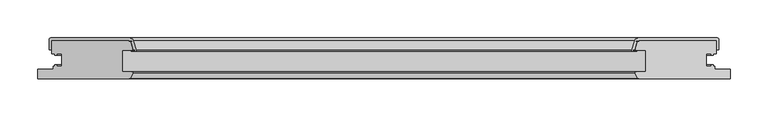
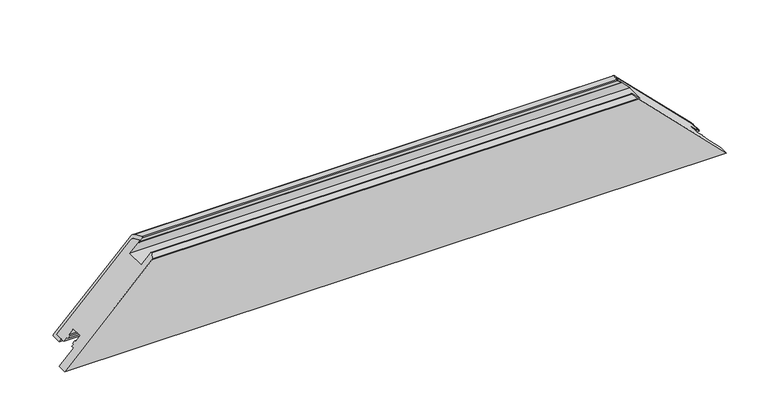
"""IFC4 building model written with IfcOpenShell, lengths in millimetres: proxy geometry, Weiku - Montante - Folha 02.2.01.019-039 : Weiku - Montante - Folha 02.2.01.019-039."""

from ifc_helpers import new_model, si_unit, frame, origin, place, context, project, spatial, polyline, ellipse_curve, source, transform, mapped, element, save
from ifc_brep_helpers import plane_surface, cylinder_surface, revolved_surface, advanced_brep


def generic_models_b032b2cc(model_context):
    return source(origin(), model_context, "Body", "AdvancedBrep", [
        advanced_brep(
        [(438.0000338, 50.0, 17.9999662), (336.4977922, 50.0, 119.5022078), (333.6000147, 47.7764571, 122.3999853), (331.0150961, 38.1294095, 124.9849039), (331.498059, 37.5, 124.501941), (344.998059, 37.5, 111.001941), (344.998059, 9.5, 111.001941), (332.2114874, 9.5, 123.7885126), (331.0493385, 7.617411, 124.9506615), (334.5913247, 0.5518546, 121.4086753), (335.4852854, 0.0, 120.5147146), (456.0, 0.0, 0.0), (456.0, 12.5, 0.0), (436.0, 12.5, 20.0), (436.0, 16.9, 20.0), (433.8, 16.9, 22.2), (433.8, 18.9, 22.2), (431.0, 18.9, 25.0), (431.0, 16.9, 25.0), (424.5, 16.9, 31.5), (424.5, 33.1, 31.5), (431.0, 33.1, 25.0), (431.0, 31.1, 25.0), (433.8, 31.1, 22.2), (433.8, 33.1, 22.2), (438.0000338, 33.1, 17.9999662), (-336.4977922, 50.0, 119.5022078), (-438.0000338, 50.0, 17.9999662), (-438.0000338, 33.1, 17.9999662), (-433.8, 33.1, 22.2), (-433.8, 31.1, 22.2), (-431.0, 31.1, 25.0), (-431.0, 33.1, 25.0), (-424.5, 33.1, 31.5), (-424.5, 16.9, 31.5), (-431.0, 16.9, 25.0), (-431.0, 18.9, 25.0), (-433.8, 18.9, 22.2), (-433.8, 16.9, 22.2), (-436.0, 16.9, 20.0), (-436.0, 12.5, 20.0), (-456.0, 12.5, 0.0), (-456.0, 0.0, 0.0), (-335.4852854, 0.0, 120.5147146), (-334.5913247, 0.5518546, 121.4086753), (-331.0493385, 7.617411, 124.9506615), (-332.2114874, 9.5, 123.7885126), (-344.998059, 9.5, 111.001941), (-344.998059, 37.5, 111.001941), (-331.498059, 37.5, 124.501941), (-331.0150961, 38.1294095, 124.9849039), (-333.6000147, 47.7764571, 122.3999853)],
        [
            (0, 1),
            (1, 2, ellipse_curve(frame((336.4977922, 47.0, 119.5022078), z_axis=(0.7071067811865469, 0.0, 0.7071067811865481), x_axis=(-0.7071067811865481, 0.0, 0.7071067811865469)), 4.2426407, 3.0)),
            (2, 3),
            (3, 4, ellipse_curve(frame((331.498059, 38.0, 124.501941), z_axis=(0.7071067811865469, 0.0, 0.7071067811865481), x_axis=(-0.7071067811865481, 0.0, 0.7071067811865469)), 0.7071068, 0.5)),
            (4, 5),
            (5, 6),
            (6, 7),
            (7, 8, ellipse_curve(frame((332.2114874, 8.2, 123.7885126), z_axis=(0.7071067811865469, 0.0, 0.7071067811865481), x_axis=(-0.7071067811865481, 0.0, 0.7071067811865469)), 1.8384776, 1.3)),
            (8, 9),
            (9, 10, ellipse_curve(frame((335.4852854, 1.0, 120.5147146), z_axis=(0.7071067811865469, 0.0, 0.7071067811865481), x_axis=(-0.7071067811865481, 0.0, 0.7071067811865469)), 1.4142136, 1.0)),
            (10, 11),
            (11, 12),
            (12, 13),
            (13, 14),
            (14, 15),
            (15, 16),
            (16, 17),
            (17, 18),
            (18, 19),
            (19, 20),
            (20, 21),
            (21, 22),
            (22, 23),
            (23, 24),
            (24, 25),
            (25, 0),
            (26, 27),
            (27, 28),
            (28, 29),
            (29, 30),
            (30, 31),
            (31, 32),
            (32, 33),
            (33, 34),
            (34, 35),
            (35, 36),
            (36, 37),
            (37, 38),
            (38, 39),
            (39, 40),
            (40, 41),
            (41, 42),
            (42, 43),
            (43, 44, ellipse_curve(frame((-335.4852854, 1.0, 120.5147146), z_axis=(-0.7071067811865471, 0.0, 0.707106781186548), x_axis=(-0.7071067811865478, 0.0, -0.7071067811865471)), 1.4142136, 1.0)),
            (44, 45),
            (45, 46, ellipse_curve(frame((-332.2114874, 8.2, 123.7885126), z_axis=(-0.7071067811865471, 0.0, 0.707106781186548), x_axis=(-0.7071067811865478, 0.0, -0.7071067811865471)), 1.8384776, 1.3)),
            (46, 47),
            (47, 48),
            (48, 49),
            (49, 50, ellipse_curve(frame((-331.498059, 38.0, 124.501941), z_axis=(-0.7071067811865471, 0.0, 0.707106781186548), x_axis=(-0.7071067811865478, 0.0, -0.7071067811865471)), 0.7071068, 0.5)),
            (50, 51),
            (51, 26, ellipse_curve(frame((-336.4977922, 47.0, 119.5022078), z_axis=(-0.7071067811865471, 0.0, 0.707106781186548), x_axis=(-0.7071067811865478, 0.0, -0.7071067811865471)), 4.2426407, 3.0)),
            (0, 27),
            (26, 1),
            (25, 28),
            (24, 29),
            (23, 30),
            (22, 31),
            (21, 32),
            (20, 33),
            (19, 34),
            (18, 35),
            (17, 36),
            (16, 37),
            (15, 38),
            (14, 39),
            (13, 40),
            (12, 41),
            (11, 42),
            (10, 43),
            (9, 44),
            (8, 45),
            (7, 46),
            (6, 47),
            (5, 48),
            (4, 49),
            (3, 50),
            (2, 51),
        ],
        [
            plane_surface(frame((326.0, -13.0, 130.0), z_axis=(0.7071067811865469, 0.0, 0.7071067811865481), x_axis=(0.0, 1.0, 0.0))),
            plane_surface(frame((-484.2842712, -13.0, -28.2842712), z_axis=(-0.7071067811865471, 0.0, 0.707106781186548), x_axis=(0.0, 1.0, 0.0))),
            plane_surface(frame((-456.0, 50.0, 119.5022078), z_axis=(0.0, 1.0, 0.0), x_axis=(1.0, 0.0, 0.0))),
            plane_surface(frame((-456.0, 50.0, 17.9999662), z_axis=(0.0, 0.0, -1.0), x_axis=(1.0, 0.0, 0.0))),
            plane_surface(frame((-456.0, 33.1, 17.9999662), z_axis=(0.0, -1.0, 0.0), x_axis=(1.0, 0.0, 0.0))),
            plane_surface(frame((-456.0, 33.1, 22.2), z_axis=(0.0, 0.0, -1.0), x_axis=(1.0, 0.0, 0.0))),
            plane_surface(frame((-456.0, 31.1, 22.2), z_axis=(0.0, -1.0, 0.0), x_axis=(1.0, 0.0, 0.0))),
            plane_surface(frame((-456.0, 31.1, 25.0), z_axis=(0.0, 0.0, 1.0), x_axis=(1.0, 0.0, 0.0))),
            plane_surface(frame((-456.0, 33.1, 25.0), z_axis=(0.0, -1.0, 0.0), x_axis=(1.0, 0.0, 0.0))),
            plane_surface(frame((-456.0, 33.1, 31.5), z_axis=(0.0, 0.0, -1.0), x_axis=(1.0, 0.0, 0.0))),
            plane_surface(frame((-456.0, 16.9, 31.5), z_axis=(0.0, 1.0, 0.0), x_axis=(1.0, 0.0, 0.0))),
            plane_surface(frame((-456.0, 16.9, 25.0), z_axis=(0.0, 0.0, 1.0), x_axis=(1.0, 0.0, 0.0))),
            plane_surface(frame((-456.0, 18.9, 25.0), z_axis=(0.0, 1.0, 0.0), x_axis=(1.0, 0.0, 0.0))),
            plane_surface(frame((-456.0, 18.9, 22.2), z_axis=(0.0, 0.0, -1.0), x_axis=(1.0, 0.0, 0.0))),
            plane_surface(frame((-456.0, 16.9, 22.2), z_axis=(0.0, 1.0, 0.0), x_axis=(1.0, 0.0, 0.0))),
            plane_surface(frame((-456.0, 16.9, 20.0), z_axis=(0.0, 0.0, -1.0), x_axis=(1.0, 0.0, 0.0))),
            plane_surface(frame((-456.0, 12.5, 20.0), z_axis=(0.0, 1.0, 0.0), x_axis=(1.0, 0.0, 0.0))),
            plane_surface(frame((-456.0, 12.5, 0.0), z_axis=(0.0, 0.0, -1.0), x_axis=(1.0, 0.0, 0.0))),
            plane_surface(frame((-456.0, 0.0, 0.0), z_axis=(0.0, -1.0, 0.0), x_axis=(1.0, 0.0, 0.0))),
            cylinder_surface(frame((-456.0, 1.0, 120.5147146), z_axis=(-1.0, 0.0, 0.0), x_axis=(0.0, 1.0, 0.0)), 1.0),
            plane_surface(frame((-456.0, 0.5518546, 121.4086753), z_axis=(0.0, -0.4481453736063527, 0.8939606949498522), x_axis=(1.0, 0.0, 0.0))),
            cylinder_surface(frame((-456.0, 8.2, 123.7885126), z_axis=(-1.0, 0.0, 0.0), x_axis=(0.0, 1.0, 0.0)), 1.3),
            plane_surface(frame((-456.0, 9.5, 123.7885126), z_axis=(0.0, 1.0, 0.0), x_axis=(1.0, 0.0, 0.0))),
            plane_surface(frame((-456.0, 9.5, 111.001941), z_axis=(0.0, 0.0, 1.0), x_axis=(1.0, 0.0, 0.0))),
            plane_surface(frame((-456.0, 37.5, 111.001941), z_axis=(0.0, -1.0, 0.0), x_axis=(1.0, 0.0, 0.0))),
            cylinder_surface(frame((-456.0, 38.0, 124.501941), z_axis=(-1.0, 0.0, 0.0), x_axis=(0.0, 1.0, 0.0)), 0.5),
            plane_surface(frame((-456.0, 38.1294095, 124.9849039), z_axis=(0.0, 0.2588190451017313, 0.9659258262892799), x_axis=(1.0, 0.0, 0.0))),
            cylinder_surface(frame((-456.0, 47.0, 119.5022078), z_axis=(-1.0, 0.0, 0.0), x_axis=(0.0, 1.0, 0.0)), 3.0),
        ],
        [
            (0, [[1, 2, 3, 4, 5, 6, 7, 8, 9, 10, 11, 12, 13, 14, 15, 16, 17, 18, 19, 20, 21, 22, 23, 24, 25, 26]]),
            (1, [[27, 28, 29, 30, 31, 32, 33, 34, 35, 36, 37, 38, 39, 40, 41, 42, 43, 44, 45, 46, 47, 48, 49, 50, 51, 52]]),
            (2, [[-1, 53, -27, 54]]),
            (3, [[-26, 55, -28, -53]]),
            (4, [[-25, 56, -29, -55]]),
            (5, [[-24, 57, -30, -56]]),
            (6, [[-23, 58, -31, -57]]),
            (7, [[-22, 59, -32, -58]]),
            (8, [[-21, 60, -33, -59]]),
            (9, [[-20, 61, -34, -60]]),
            (10, [[-19, 62, -35, -61]]),
            (11, [[-18, 63, -36, -62]]),
            (12, [[-17, 64, -37, -63]]),
            (13, [[-16, 65, -38, -64]]),
            (14, [[-15, 66, -39, -65]]),
            (15, [[-14, 67, -40, -66]]),
            (16, [[68, -41, -67, -13]]),
            (17, [[-68, -12, 69, -42]]),
            (18, [[-69, -11, 70, -43]]),
            (19, [[-10, 71, -44, -70]]),
            (20, [[-9, 72, -45, -71]]),
            (21, [[-8, 73, -46, -72]]),
            (22, [[-7, 74, -47, -73]]),
            (23, [[-6, 75, -48, -74]]),
            (24, [[-5, 76, -49, -75]]),
            (25, [[-4, 77, -50, -76]]),
            (26, [[-3, 78, -51, -77]]),
            (27, [[-2, -54, -52, -78]]),
        ],
    ),
        advanced_brep(
        [(336.4977922, 50.0, 119.5022078), (438.0000338, 50.0, 17.9999662), (438.0000338, 38.5, 17.9999662), (441.0000338, 38.5, 14.9999662), (441.0000338, 52.0, 14.9999662), (439.0000338, 54.0, 16.9999662), (334.9631382, 54.0, 121.0368618), (330.133509, 50.2940952, 125.866491), (326.7746919, 37.758819, 129.2253081), (327.7406177, 36.5, 128.2593823), (332.3540691, 36.5, 123.6459309), (332.3540691, 37.5, 123.6459309), (331.498059, 37.5, 124.501941), (331.0150961, 38.1294095, 124.9849039), (333.6000147, 47.7764571, 122.3999853), (-438.0000338, 50.0, 17.9999662), (-336.4977922, 50.0, 119.5022078), (-333.6000147, 47.7764571, 122.3999853), (-331.0150961, 38.1294095, 124.9849039), (-331.498059, 37.5, 124.501941), (-332.3540691, 37.5, 123.6459309), (-332.3540691, 36.5, 123.6459309), (-327.7406177, 36.5, 128.2593823), (-326.7746919, 37.758819, 129.2253081), (-330.133509, 50.2940952, 125.866491), (-334.9631382, 54.0, 121.0368618), (-439.0000338, 54.0, 16.9999662), (-441.0000338, 52.0, 14.9999662), (-441.0000338, 38.5, 14.9999662), (-438.0000338, 38.5, 17.9999662)],
        [
            (0, 1),
            (1, 2),
            (2, 3),
            (3, 4),
            (4, 5, ellipse_curve(frame((439.0000338, 52.0, 16.9999662), z_axis=(0.7071067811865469, 0.0, 0.7071067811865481), x_axis=(-0.7071067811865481, 0.0, 0.7071067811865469)), 2.8284271, 2.0)),
            (5, 6),
            (6, 7, ellipse_curve(frame((334.9631382, 49.0, 121.0368618), z_axis=(0.7071067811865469, 0.0, 0.7071067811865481), x_axis=(-0.7071067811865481, 0.0, 0.7071067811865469)), 7.0710678, 5.0)),
            (7, 8),
            (8, 9, ellipse_curve(frame((327.7406177, 37.5, 128.2593823), z_axis=(0.7071067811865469, 0.0, 0.7071067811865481), x_axis=(-0.7071067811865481, 0.0, 0.7071067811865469)), 1.4142136, 1.0)),
            (9, 10),
            (10, 11, ellipse_curve(frame((332.3540691, 37.0, 123.6459309), z_axis=(0.7071067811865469, 0.0, 0.7071067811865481), x_axis=(-0.7071067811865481, 0.0, 0.7071067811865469)), 0.7071068, 0.5)),
            (11, 12),
            (12, 13, ellipse_curve(frame((331.498059, 38.0, 124.501941), z_axis=(-0.7071067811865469, 0.0, -0.7071067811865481), x_axis=(0.7071067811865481, 0.0, -0.7071067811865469)), 0.7071068, 0.5)),
            (13, 14),
            (14, 0, ellipse_curve(frame((336.4977922, 47.0, 119.5022078), z_axis=(-0.7071067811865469, 0.0, -0.7071067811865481), x_axis=(0.7071067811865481, 0.0, -0.7071067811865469)), 4.2426407, 3.0)),
            (15, 16),
            (16, 17, ellipse_curve(frame((-336.4977922, 47.0, 119.5022078), z_axis=(0.7071067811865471, 0.0, -0.707106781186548), x_axis=(0.7071067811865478, 0.0, 0.7071067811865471)), 4.2426407, 3.0)),
            (17, 18),
            (18, 19, ellipse_curve(frame((-331.498059, 38.0, 124.501941), z_axis=(0.7071067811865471, 0.0, -0.707106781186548), x_axis=(0.7071067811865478, 0.0, 0.7071067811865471)), 0.7071068, 0.5)),
            (19, 20),
            (20, 21, ellipse_curve(frame((-332.3540691, 37.0, 123.6459309), z_axis=(-0.7071067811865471, 0.0, 0.707106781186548), x_axis=(-0.7071067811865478, 0.0, -0.7071067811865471)), 0.7071068, 0.5)),
            (21, 22),
            (22, 23, ellipse_curve(frame((-327.7406177, 37.5, 128.2593823), z_axis=(-0.7071067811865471, 0.0, 0.707106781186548), x_axis=(-0.7071067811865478, 0.0, -0.7071067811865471)), 1.4142136, 1.0)),
            (23, 24),
            (24, 25, ellipse_curve(frame((-334.9631382, 49.0, 121.0368618), z_axis=(-0.7071067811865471, 0.0, 0.707106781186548), x_axis=(-0.7071067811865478, 0.0, -0.7071067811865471)), 7.0710678, 5.0)),
            (25, 26),
            (26, 27, ellipse_curve(frame((-439.0000338, 52.0, 16.9999662), z_axis=(-0.7071067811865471, 0.0, 0.707106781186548), x_axis=(-0.7071067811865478, 0.0, -0.7071067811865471)), 2.8284271, 2.0)),
            (27, 28),
            (28, 29),
            (29, 15),
            (0, 16),
            (15, 1),
            (14, 17),
            (13, 18),
            (12, 19),
            (11, 20),
            (10, 21),
            (9, 22),
            (8, 23),
            (7, 24),
            (6, 25),
            (5, 26),
            (4, 27),
            (3, 28),
            (2, 29),
        ],
        [
            plane_surface(frame((326.0, -13.0, 130.0), z_axis=(0.7071067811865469, 0.0, 0.7071067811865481), x_axis=(0.0, 1.0, 0.0))),
            plane_surface(frame((-484.2842712, -13.0, -28.2842712), z_axis=(-0.7071067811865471, 0.0, 0.707106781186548), x_axis=(0.0, 1.0, 0.0))),
            plane_surface(frame((-476.0, 50.0, 17.9999662), z_axis=(0.0, -1.0, 0.0), x_axis=(1.0, 0.0, 0.0))),
            revolved_surface(polyline([(339.49779220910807, 50.0, 119.5022078), (-339.49779220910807, 50.0, 119.5022078)]), (-476.0, 47.0, 119.5022078), (1.0, 0.0, 0.0)),
            plane_surface(frame((-476.0, 47.7764571, 122.3999853), z_axis=(0.0, -0.25881904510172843, -0.9659258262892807), x_axis=(1.0, 0.0, 0.0))),
            revolved_surface(polyline([(331.9980590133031, 38.5, 124.501941), (-331.99805901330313, 38.5, 124.501941)]), (-476.0, 38.0, 124.501941), (1.0, 0.0, 0.0)),
            plane_surface(frame((-476.0, 37.5, 124.501941), z_axis=(0.0, 1.0, 0.0), x_axis=(1.0, 0.0, 0.0))),
            cylinder_surface(frame((-476.0, 37.0, 123.6459309), z_axis=(-1.0, 0.0, 0.0), x_axis=(0.0, 1.0, 0.0)), 0.5),
            plane_surface(frame((-476.0, 36.5, 123.6459309), z_axis=(0.0, -1.0, 0.0), x_axis=(1.0, 0.0, 0.0))),
            cylinder_surface(frame((-476.0, 37.5, 128.2593823), z_axis=(-1.0, 0.0, 0.0), x_axis=(0.0, 1.0, 0.0)), 1.0),
            plane_surface(frame((-476.0, 37.758819, 129.2253081), z_axis=(0.0, 0.25881904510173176, 0.9659258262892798), x_axis=(1.0, 0.0, 0.0))),
            cylinder_surface(frame((-476.0, 49.0, 121.0368618), z_axis=(-1.0, 0.0, 0.0), x_axis=(0.0, 1.0, 0.0)), 5.0),
            plane_surface(frame((-476.0, 54.0, 121.0368618), z_axis=(0.0, 1.0, 0.0), x_axis=(1.0, 0.0, 0.0))),
            cylinder_surface(frame((-476.0, 52.0, 16.9999662), z_axis=(-1.0, 0.0, 0.0), x_axis=(0.0, 1.0, 0.0)), 2.0),
            plane_surface(frame((-476.0, 52.0, 14.9999662), z_axis=(0.0, 0.0, -1.0), x_axis=(1.0, 0.0, 0.0))),
            plane_surface(frame((-476.0, 38.5, 14.9999662), z_axis=(0.0, -1.0, 0.0), x_axis=(1.0, 0.0, 0.0))),
            plane_surface(frame((-476.0, 38.5, 17.9999662), z_axis=(0.0, 0.0, 1.0), x_axis=(1.0, 0.0, 0.0))),
        ],
        [
            (0, [[1, 2, 3, 4, 5, 6, 7, 8, 9, 10, 11, 12, 13, 14, 15]]),
            (1, [[16, 17, 18, 19, 20, 21, 22, 23, 24, 25, 26, 27, 28, 29, 30]]),
            (2, [[-1, 31, -16, 32]]),
            (3, [[-15, 33, -17, -31]]),
            (4, [[-14, 34, -18, -33]]),
            (5, [[-13, 35, -19, -34]]),
            (6, [[-12, 36, -20, -35]]),
            (7, [[-11, 37, -21, -36]]),
            (8, [[-10, 38, -22, -37]]),
            (9, [[-9, 39, -23, -38]]),
            (10, [[-8, 40, -24, -39]]),
            (11, [[-7, 41, -25, -40]]),
            (12, [[-6, 42, -26, -41]]),
            (13, [[-5, 43, -27, -42]]),
            (14, [[-4, 44, -28, -43]]),
            (15, [[-3, 45, -29, -44]]),
            (16, [[-2, -32, -30, -45]]),
        ],
    ),
    ])


if __name__ == "__main__":
    model = new_model("IFC4")
    model_context = context("Model", 3, world=origin())
    ifc_project = project(units=[si_unit("LENGTHUNIT", "METRE", prefix="MILLI")], contexts=[model_context])
    site = spatial("IfcSite", under=ifc_project)
    building = spatial("IfcBuilding", under=site)
    placement = place(None, origin())
    generic_models_shape = generic_models_b032b2cc(model_context)
    element("IfcBuildingElementProxy", 1, Name="Weiku - Montante - Folha 02.2.01.019-039 : Weiku - Montante - Folha 02.2.01.019-039", ObjectType="Weiku - Montante - Folha 02.2.01.019-039 : Weiku - Montante - Folha 02.2.01.019-039", at=placement, inside=building, context=model_context, shape_type="MappedRepresentation", body=[
        mapped(generic_models_shape, transform((0.0, 0.0, 0.0), x_axis=(1.0, 0.0, 0.0), y_axis=(0.0, 1.0, 0.0), z_axis=(0.0, 0.0, 1.0))),
    ])
    save(model, "model.ifc")
